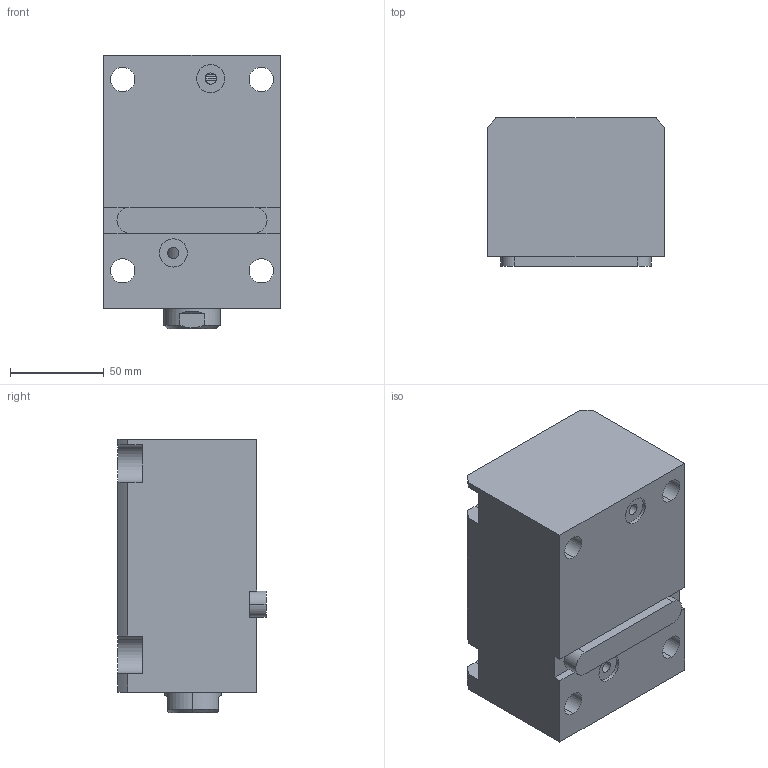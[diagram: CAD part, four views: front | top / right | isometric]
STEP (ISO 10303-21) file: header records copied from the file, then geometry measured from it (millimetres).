
FILE_DESCRIPTION (( 'STEP AP203' ), '1' );
FILE_NAME ('CHTB-LAM50-75N.STEP', '2018-05-23T11:08:05', ( '' ), ( '' ), 'SwSTEP 2.0', 'SolidWorks 2015', '' );
FILE_SCHEMA (( 'CONFIG_CONTROL_DESIGN' ));
Length unit declared in the file: millimetre
Products named in the file (4): CHTM-SDMA50QG; CHTB-LAM50-75N; 活塞杆LAM50-75N; 掛极LAM50-75N
Assembly tree (3 placements, depth 2):
  CHTB-LAM50-75N
    掛极LAM50-75N
    活塞杆LAM50-75N
    CHTM-SDMA50QG
Bounding box: 94 x 79 x 146 mm (x, y, z)
Volume: 789617.7 mm3; surface area: 126769.5 mm2
Topology: 3 solids, 3 shells, 192 faces, 524 edges, 347 vertices
Faces by surface type: cylinder 96, plane 51, torus 16, cone 15, bspline 14
Entity records: 11011 total; most frequent: CARTESIAN_POINT 5956, ORIENTED_EDGE 1036, DIRECTION 908, EDGE_CURVE 518, AXIS2_PLACEMENT_3D 356, VERTEX_POINT 347, EDGE_LOOP 221, LINE 196
